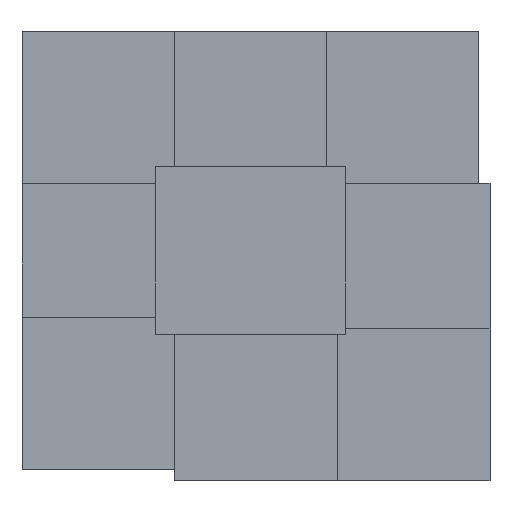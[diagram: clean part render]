
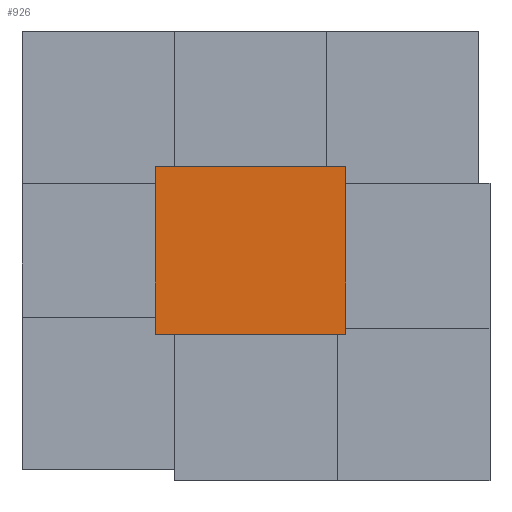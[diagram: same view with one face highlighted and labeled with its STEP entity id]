
A CAD part, left-side view. The second image highlights one B-rep face of the part: STEP entity #926.
In plain terms, the highlighted planar face has unit normal (-1, 0, 0).
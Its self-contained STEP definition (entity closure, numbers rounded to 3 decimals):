
#808=CARTESIAN_POINT('Line Origine',(0.,0.,55.)) ;
#812=CARTESIAN_POINT('Vertex',(0.,0.,0.)) ;
#814=CARTESIAN_POINT('Vertex',(0.,0.,110.)) ;
#883=CARTESIAN_POINT('Vertex',(0.,125.,0.)) ;
#886=CARTESIAN_POINT('Line Origine',(0.,125.,55.)) ;
#890=CARTESIAN_POINT('Vertex',(0.,125.,110.)) ;
#905=CARTESIAN_POINT('Axis2P3D Location',(0.,125.,0.)) ;
#910=CARTESIAN_POINT('Line Origine',(0.,62.5,0.)) ;
#915=CARTESIAN_POINT('Line Origine',(0.,62.5,110.)) ;
#809=DIRECTION('Vector Direction',(0.,0.,1.)) ;
#887=DIRECTION('Vector Direction',(0.,0.,1.)) ;
#906=DIRECTION('Axis2P3D Direction',(-1.,0.,0.)) ;
#907=DIRECTION('Axis2P3D XDirection',(0.,-1.,0.)) ;
#911=DIRECTION('Vector Direction',(0.,-1.,0.)) ;
#916=DIRECTION('Vector Direction',(0.,-1.,0.)) ;
#908=AXIS2_PLACEMENT_3D('Plane Axis2P3D',#905,#906,#907) ;
#921=ORIENTED_EDGE('',*,*,#892,.F.) ;
#922=ORIENTED_EDGE('',*,*,#914,.T.) ;
#923=ORIENTED_EDGE('',*,*,#816,.T.) ;
#924=ORIENTED_EDGE('',*,*,#919,.F.) ;
#810=VECTOR('Line Direction',#809,1.) ;
#888=VECTOR('Line Direction',#887,1.) ;
#912=VECTOR('Line Direction',#911,1.) ;
#917=VECTOR('Line Direction',#916,1.) ;
#926=ADVANCED_FACE('Body.2-molde-superior',(#925),#909,.T.) ;
#816=EDGE_CURVE('',#813,#815,#811,.T.) ;
#892=EDGE_CURVE('',#884,#891,#889,.T.) ;
#914=EDGE_CURVE('',#884,#813,#913,.T.) ;
#919=EDGE_CURVE('',#891,#815,#918,.T.) ;
#920=EDGE_LOOP('',(#921,#922,#923,#924)) ;
#925=FACE_OUTER_BOUND('',#920,.T.) ;
#811=LINE('Line',#808,#810) ;
#889=LINE('Line',#886,#888) ;
#913=LINE('Line',#910,#912) ;
#918=LINE('Line',#915,#917) ;
#909=PLANE('',#908) ;
#813=VERTEX_POINT('',#812) ;
#815=VERTEX_POINT('',#814) ;
#884=VERTEX_POINT('',#883) ;
#891=VERTEX_POINT('',#890) ;
